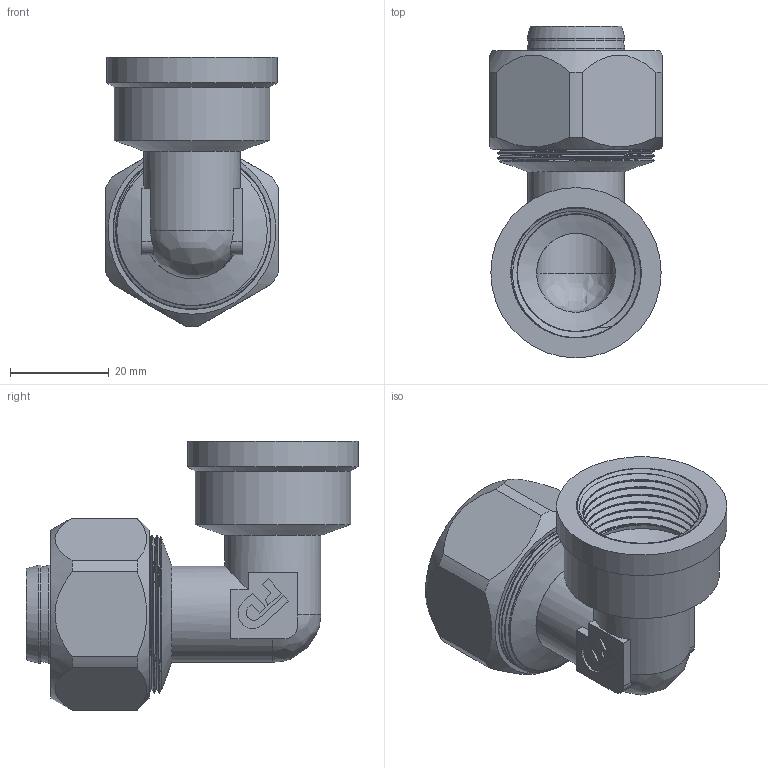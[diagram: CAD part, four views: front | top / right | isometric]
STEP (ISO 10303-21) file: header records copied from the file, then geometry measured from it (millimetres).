
FILE_DESCRIPTION(/* description */ (''),/* implementation_level */ '2;1');
FILE_NAME(/* name */ 'C:\Users\Doom\Desktop\Фадотех\Обжим\RFU16 F 30.03.2020\RFU16 F 30.03.2020.stp',/* time_stamp */ '2022-06-01T16:28:17+03:00',/* author */ ('Doom'),/* organization */ (''),/* preprocessor_version */ 'ST-DEVELOPER v18',/* originating_system */ 'Autodesk Inventor 2020',/* authorisation */ '');
FILE_SCHEMA (('AUTOMOTIVE_DESIGN { 1 0 10303 214 3 1 1 }','MODEL_BASED_INTEGRATED_MANUFACTURING_SCHEMA'));
Length unit declared in the file: millimetre
Products named in the file (5): RFU16 F 30.03.2020; RFU16 F 30.03.2020_1; Olive 26 15.02.2020; FADO MC Socket-26 15.02.2020; FADO MC Nut-26 15.02.2020
Assembly tree (4 placements, depth 2):
  RFU16 F 30.03.2020
    RFU16 F 30.03.2020_1
    Olive 26 15.02.2020
    FADO MC Socket-26 15.02.2020
    FADO MC Nut-26 15.02.2020
Bounding box: 35 x 67.25 x 54.5 mm (x, y, z)
Volume: 26618.9 mm3; surface area: 33071.2 mm2
Topology: 7 solids, 7 shells, 586 faces, 1628 edges, 1095 vertices
Faces by surface type: bspline 282, plane 180, cylinder 99, cone 22, torus 3
Full cylindrical faces by diameter (mm): 15.5 x1, 16 x2, 17.6 x2, 19.5 x2, 19.8 x5, 21 x1, 23.75 x8, 24 x2, 24.5 x1, 26.44 x2, 26.5 x1, 30 x1, 30.517 x13, 30.6 x1, 31.5 x1, 32 x12, 34.5 x1
Entity records: 38468 total; most frequent: CARTESIAN_POINT 25158, ORIENTED_EDGE 3236, DIRECTION 1858, EDGE_CURVE 1618, VERTEX_POINT 1091, LINE 662, VECTOR 662, B_SPLINE_CURVE_WITH_KNOTS 655
